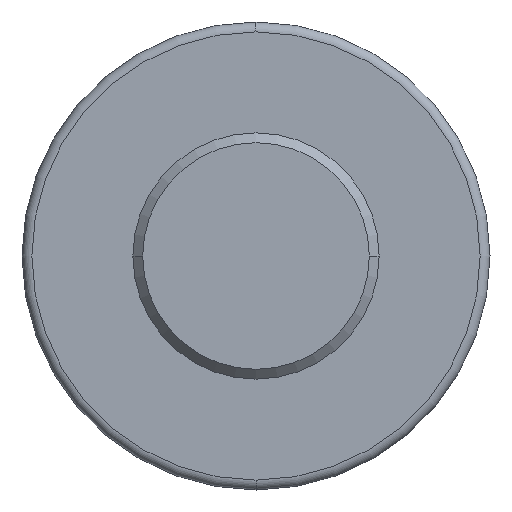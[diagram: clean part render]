
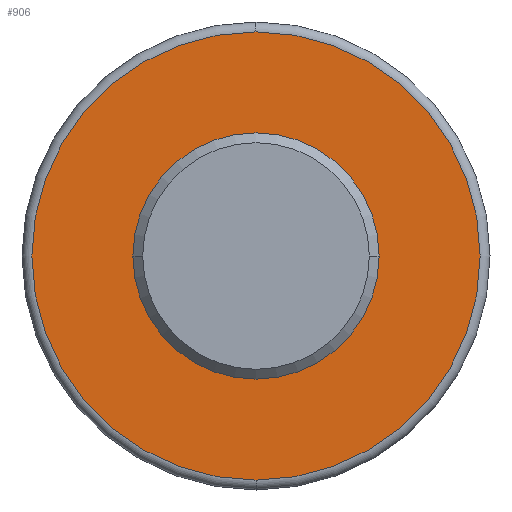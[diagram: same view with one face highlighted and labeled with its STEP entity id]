
A CAD part, front view. The second image highlights one B-rep face of the part: STEP entity #906.
In plain terms, the highlighted planar face has unit normal (0, -1, 0).
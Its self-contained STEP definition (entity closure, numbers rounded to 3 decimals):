
#321=CARTESIAN_POINT('',(0.,0.,0.));
#322=DIRECTION('',(0.,1.,0.));
#323=DIRECTION('',(1.,0.,0.));
#324=AXIS2_PLACEMENT_3D('',#321,#322,#323);
#326=CARTESIAN_POINT('',(0.,0.,0.));
#327=DIRECTION('',(0.,1.,0.));
#328=DIRECTION('',(-1.,0.,0.));
#329=AXIS2_PLACEMENT_3D('',#326,#327,#328);
#331=CARTESIAN_POINT('',(0.,0.,0.));
#332=DIRECTION('',(0.,1.,0.));
#333=DIRECTION('',(0.,0.,-1.));
#334=AXIS2_PLACEMENT_3D('',#331,#332,#333);
#336=CARTESIAN_POINT('',(0.,0.,0.));
#337=DIRECTION('',(0.,1.,0.));
#338=DIRECTION('',(0.,0.,1.));
#339=AXIS2_PLACEMENT_3D('',#336,#337,#338);
#777=CARTESIAN_POINT('',(2.5,0.,0.));
#778=CARTESIAN_POINT('',(-2.5,0.,0.));
#779=VERTEX_POINT('',#777);
#780=VERTEX_POINT('',#778);
#801=CARTESIAN_POINT('',(0.,0.,-4.55));
#802=CARTESIAN_POINT('',(0.,0.,4.55));
#803=VERTEX_POINT('',#801);
#804=VERTEX_POINT('',#802);
#889=CARTESIAN_POINT('',(0.,0.,0.));
#890=DIRECTION('',(0.,1.,0.));
#891=DIRECTION('',(0.,0.,-1.));
#892=AXIS2_PLACEMENT_3D('',#889,#890,#891);
#893=PLANE('',#892);
#895=ORIENTED_EDGE('',*,*,#894,.T.);
#897=ORIENTED_EDGE('',*,*,#896,.T.);
#898=EDGE_LOOP('',(#895,#897));
#899=FACE_OUTER_BOUND('',#898,.F.);
#901=ORIENTED_EDGE('',*,*,#900,.F.);
#903=ORIENTED_EDGE('',*,*,#902,.F.);
#904=EDGE_LOOP('',(#901,#903));
#905=FACE_BOUND('',#904,.F.);
#906=ADVANCED_FACE('',(#899,#905),#893,.F.);
#325=CIRCLE('',#324,2.5);
#330=CIRCLE('',#329,2.5);
#335=CIRCLE('',#334,4.55);
#340=CIRCLE('',#339,4.55);
#894=EDGE_CURVE('',#803,#804,#335,.T.);
#896=EDGE_CURVE('',#804,#803,#340,.T.);
#900=EDGE_CURVE('',#779,#780,#325,.T.);
#902=EDGE_CURVE('',#780,#779,#330,.T.);
